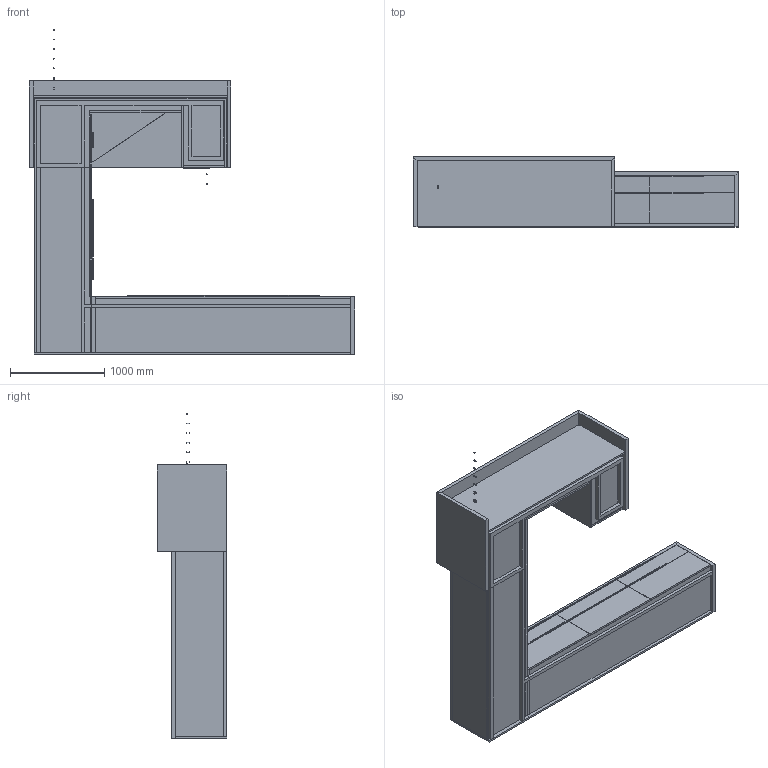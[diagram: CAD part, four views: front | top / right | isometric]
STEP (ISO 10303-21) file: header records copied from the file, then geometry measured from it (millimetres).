
FILE_DESCRIPTION(/* description */ ('','CAx-IF Rec.Pracs.---Representation and Presentation of Product Manufacturing Information (PMI)---4.0---2014-10-13'),/* implementation_level */ '2;1');
FILE_NAME(/* name */ 'PRIVATE OFFICE_FOUNDATION 4.stp',/* time_stamp */ '2024-12-08T10:41:45-05:00',/* author */ ('mbowman'),/* organization */ (''),/* preprocessor_version */ 'ST-DEVELOPER v19.2',/* originating_system */ 'Autodesk Inventor 2023',/* authorisation */ '');
FILE_SCHEMA (('AP242_MANAGED_MODEL_BASED_3D_ENGINEERING_MIM_LF { 1 0 10303 442 1 1 4 }'));
Products named in the file (19): FOUNDATION^PO4_OFFICE-SOLID ASSEMBLY; FOUNDATION^PO4_SIDE CREDENZA-SOLID ASSEMBLY; FOUNDATION^PO4_SIDE CREDENZA-PARTS SOLID; FOUNDATION^PO4_REAR CREDENZA-SOLID ASSEMBLY; FOUNDATION^PO4_REAR CREDENZA-PARTS SOLID; JW PULL-22_25_STANDARD; JW PULL-35_375^STANDARD; FOUNDATION^PO4_DESK-SOLID ASSEMBLY; FOUNDATION^PO4_DESK BASE-SOLID ASSEMBLY; FOUNDATION^PO4_DESK BASE-PARTS SOLID; JW PULL-11_125^STANDARD; JW PULL-3^STANDARD; FOUNDATION^PO4_DESK TOP-PARTS SOLID; dl5nc_without_bracket_STEP; dl5nc_without_bracket_STEP_1; dl5nc_without_bracket_STEP_2; DL5NC_OP; STANDART_MOTORHUS1_DL5; FOUNDATION^PO4_DESK TOP-METAL FRAME
Assembly tree (32 placements, depth 4):
  FOUNDATION^PO4_OFFICE-SOLID ASSEMBLY
    FOUNDATION^PO4_SIDE CREDENZA-SOLID ASSEMBLY
      JW PULL-11_125^STANDARD
      JW PULL-22_25_STANDARD  x3
      FOUNDATION^PO4_SIDE CREDENZA-PARTS SOLID
    FOUNDATION^PO4_REAR CREDENZA-SOLID ASSEMBLY
      FOUNDATION^PO4_REAR CREDENZA-PARTS SOLID
      JW PULL-22_25_STANDARD  x4
      JW PULL-35_375^STANDARD  x2
    FOUNDATION^PO4_DESK-SOLID ASSEMBLY
      FOUNDATION^PO4_DESK BASE-SOLID ASSEMBLY
        FOUNDATION^PO4_DESK BASE-PARTS SOLID
        JW PULL-11_125^STANDARD  x2
        JW PULL-3^STANDARD  x2
      FOUNDATION^PO4_DESK TOP-PARTS SOLID
      dl5nc_without_bracket_STEP
        DL5NC_OP
        STANDART_MOTORHUS1_DL5
      dl5nc_without_bracket_STEP_1
        DL5NC_OP
        STANDART_MOTORHUS1_DL5
      dl5nc_without_bracket_STEP_2
        DL5NC_OP
        STANDART_MOTORHUS1_DL5
      FOUNDATION^PO4_DESK TOP-METAL FRAME
Bounding box: 3441.7 x 736.6 x 3440.14 mm (x, y, z)
Volume: 628345531.4 mm3; surface area: 53539944.1 mm2
Topology: 71 solids, 131 shells, 4147 faces, 10803 edges, 6884 vertices
Faces by surface type: plane 2482, cylinder 1316, torus 138, bspline 114, cone 61, sphere 36
Full cylindrical faces by diameter (mm): 4.6 x6, 5 x30, 5.3 x18, 5.5 x6, 8 x6, 8.202 x60
Entity records: 58331 total; most frequent: CARTESIAN_POINT 14279, DIRECTION 8683, ORIENTED_EDGE 8338, EDGE_CURVE 4169, AXIS2_PLACEMENT_3D 2906, LINE 2871, VECTOR 2871, VERTEX_POINT 2680
